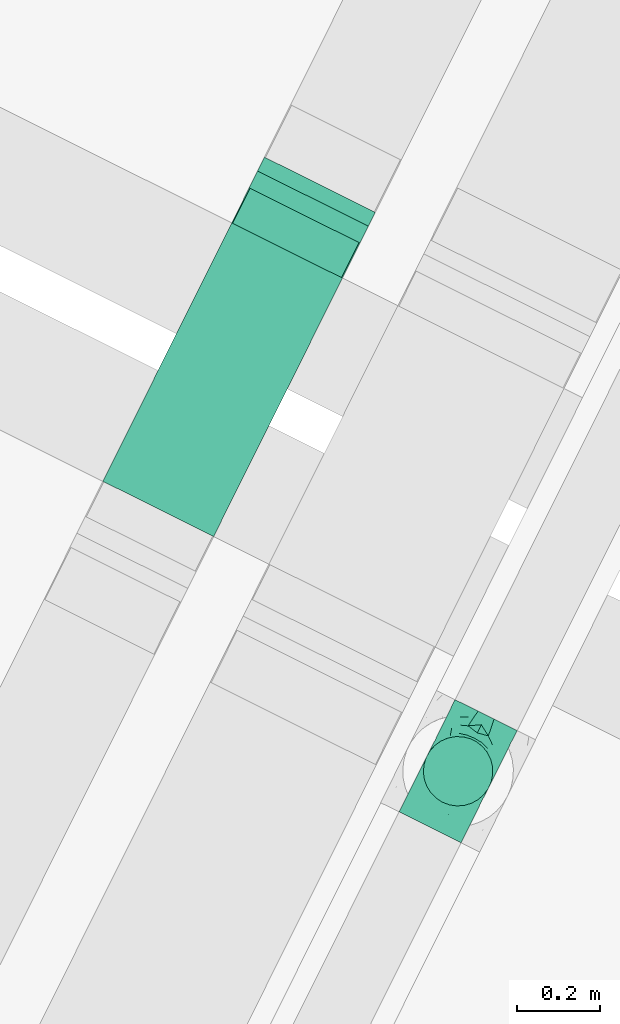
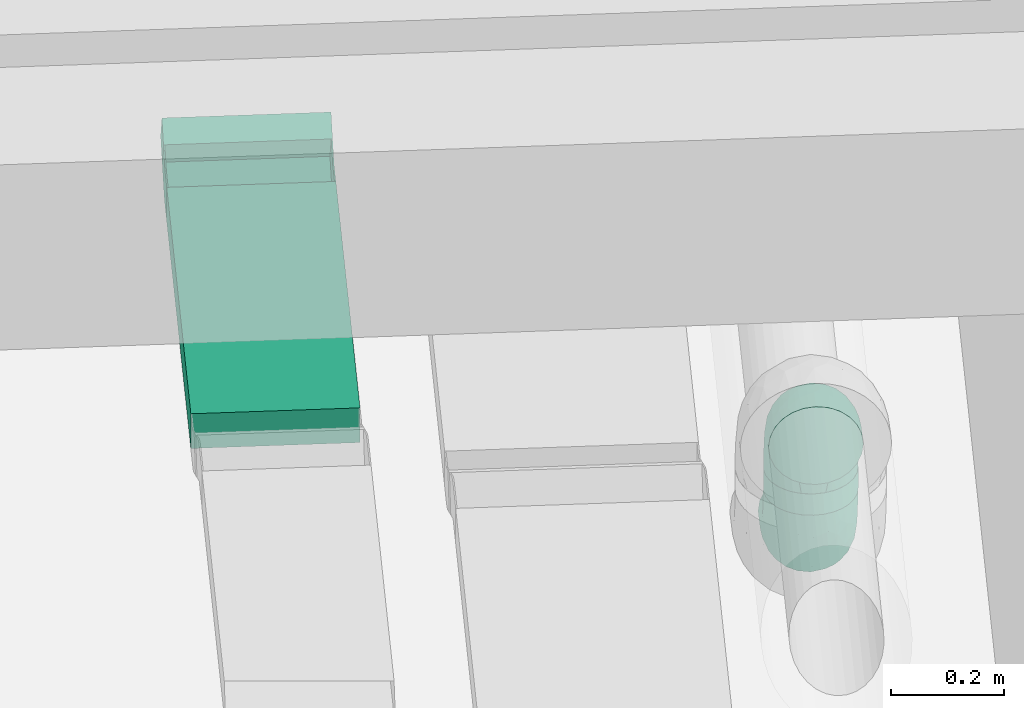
# One storey, part 75 of 91: 3 flow fittings, 3 flow segments.
"""IFC2X3 building model written with IfcOpenShell, lengths in metres."""

from ifc_helpers import new_model, entity, si_unit, converted_unit, derived_unit, direction, frame, frame_2d, origin, origin_2d_with_axis, place, context, subcontext, project, spatial, rectangle, circle, extrude, faceted_brep, source, transform, mapped, type_object, type_shapes, element, save


model = new_model("IFC2X3")

# Units and contexts
model_context = context("Model", 3, precision=1e-05, world=origin(), true_north=direction((0.894925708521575, 0.446215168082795)))
context_of_model = context(None, 3, precision=1e-05, world=origin(), true_north=direction((0.894925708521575, 0.446215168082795)))
body_context = subcontext(model_context, "Body", "Model", "MODEL_VIEW")
ifc_project = project(units=[si_unit("LENGTHUNIT", "METRE"), si_unit("AREAUNIT", "SQUARE_METRE"), si_unit("VOLUMEUNIT", "CUBIC_METRE"), converted_unit("PLANEANGLEUNIT", "DEGREE", entity("IfcRatioMeasure", 0.0174532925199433), si_unit("PLANEANGLEUNIT", "RADIAN"), dimensions=[0, 0, 0, 0, 0, 0, 0]), si_unit("MASSUNIT", "GRAM", prefix="KILO"), si_unit("TIMEUNIT", "SECOND"), si_unit("FREQUENCYUNIT", "HERTZ"), si_unit("THERMODYNAMICTEMPERATUREUNIT", "DEGREE_CELSIUS"), derived_unit("THERMALTRANSMITTANCEUNIT", [(si_unit("MASSUNIT", "GRAM", prefix="KILO"), 1), (si_unit("THERMODYNAMICTEMPERATUREUNIT", "KELVIN"), -1), (si_unit("TIMEUNIT", "SECOND"), -3)]), derived_unit("VOLUMETRICFLOWRATEUNIT", [(si_unit("LENGTHUNIT", "METRE"), 3), (si_unit("TIMEUNIT", "SECOND"), -1)]), si_unit("ELECTRICCURRENTUNIT", "AMPERE"), si_unit("ELECTRICVOLTAGEUNIT", "VOLT"), si_unit("POWERUNIT", "WATT"), si_unit("FORCEUNIT", "NEWTON", prefix="KILO"), si_unit("ILLUMINANCEUNIT", "LUX"), si_unit("LUMINOUSFLUXUNIT", "LUMEN"), si_unit("LUMINOUSINTENSITYUNIT", "CANDELA"), si_unit("PRESSUREUNIT", "PASCAL")], contexts=[model_context, context_of_model])

# Site, building, storey
site_placement = place(None, frame((218.228324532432, 584.720189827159, 0.0), z_axis=(0.0, 0.0, 1.0), x_axis=(0.446215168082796, 0.894925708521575, 0.0)))
site = spatial("IfcSite", under=ifc_project, at=site_placement, Name="Default", CompositionType="ELEMENT")
building_placement = place(site_placement, origin())
building = spatial("IfcBuilding", under=site, at=building_placement, CompositionType="ELEMENT")
storey_placement = place(building_placement, origin())
storey = spatial("IfcBuildingStorey", under=building, at=storey_placement, Name="0 - Piano Terra", CompositionType="ELEMENT", Elevation=0.0)

# Flow segment
pipe_segment_type = type_object("IfcPipeSegmentType", Name="Tubazione:Riscaldamento-Tubazione", PredefinedType="NOTDEFINED")
flow_segment_1_placement = place(storey_placement, frame((-13.5148067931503, -4.47094926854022, 3.702)))
element("IfcFlowSegment", 1, at=flow_segment_1_placement, inside=storey, type_object=pipe_segment_type, Name="Tubazione:Riscaldamento-Tubazione", ObjectType="Tubazione:Riscaldamento-Tubazione", context=body_context, shape_type="SweptSolid", body=[
    extrude(circle(Radius=0.0841375, at=origin_2d_with_axis()), frame((0.0857327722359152, 0.0857327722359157, 0.0), z_axis=(0.0, 0.0, 1.0), x_axis=(-1.0, 0.0, 0.0)), (0.0, 0.0, 1.0), 0.0460000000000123),
])

# Flow fittings
pipe_fitting_type = type_object("IfcPipeFittingType", Name="Standard", PredefinedType="NOTDEFINED")
shared_shape_1 = source(origin(), body_context, "Body", "Brep", [
    faceted_brep([(-0.151999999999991, 0.0, -0.0841500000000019), (-0.151999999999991, -0.0217796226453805, -0.081282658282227), (-0.151999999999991, -0.0420750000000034, -0.0728760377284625), (-0.151999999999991, -0.0595030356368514, -0.05950303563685), (-0.151999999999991, -0.0728760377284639, -0.0420750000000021), (-0.151999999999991, -0.0812826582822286, -0.0217796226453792), (-0.151999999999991, -0.0841500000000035, 0.0), (-0.151999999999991, -0.0812826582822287, 0.021779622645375), (-0.151999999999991, -0.0728760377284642, 0.0420749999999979), (-0.151999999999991, -0.0595030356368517, 0.0595030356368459), (-0.151999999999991, -0.0420750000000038, 0.0728760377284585), (-0.151999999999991, -0.021779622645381, 0.0812826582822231), (-0.151999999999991, 0.0, 0.0841499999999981), (-0.151999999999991, 0.0217796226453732, 0.0812826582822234), (-0.151999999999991, 0.0420749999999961, 0.0728760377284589), (-0.151999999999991, 0.0595030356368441, 0.0595030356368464), (-0.151999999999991, 0.0728760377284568, 0.0420749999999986), (-0.151999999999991, 0.0812826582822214, 0.0217796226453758), (-0.151999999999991, 0.0841499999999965, 0.0), (-0.151999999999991, 0.0812826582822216, -0.021779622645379), (-0.151999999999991, 0.072876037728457, -0.0420750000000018), (-0.151999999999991, 0.0595030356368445, -0.0595030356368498), (-0.151999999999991, 0.0420749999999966, -0.0728760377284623), (-0.151999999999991, 0.0217796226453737, -0.0812826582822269), (-0.0217796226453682, 0.151999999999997, -0.0812826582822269), (-0.0420749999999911, 0.151999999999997, -0.0728760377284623), (-0.059503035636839, 0.151999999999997, -0.0595030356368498), (-0.0728760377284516, 0.151999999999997, -0.0420750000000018), (-0.0812826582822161, 0.151999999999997, -0.021779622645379), (-0.084149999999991, 0.151999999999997, 0.0), (-0.081282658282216, 0.151999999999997, 0.0217796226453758), (-0.0728760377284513, 0.151999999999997, 0.0420749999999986), (-0.0595030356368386, 0.151999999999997, 0.0595030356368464), (-0.0420749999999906, 0.151999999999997, 0.0728760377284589), (-0.0217796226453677, 0.151999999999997, 0.0812826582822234), (0.0, 0.151999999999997, 0.0841499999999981), (0.0217796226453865, 0.151999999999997, 0.0812826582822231), (0.0420750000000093, 0.151999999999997, 0.0728760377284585), (0.0595030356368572, 0.151999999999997, 0.0595030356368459), (0.0728760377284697, 0.151999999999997, 0.0420749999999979), (0.0812826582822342, 0.151999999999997, 0.021779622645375), (0.084150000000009, 0.151999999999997, 0.0), (0.081282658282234, 0.151999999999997, -0.0217796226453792), (0.0728760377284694, 0.151999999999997, -0.0420750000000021), (0.0595030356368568, 0.151999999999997, -0.05950303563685), (0.0420750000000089, 0.151999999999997, -0.0728760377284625), (0.021779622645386, 0.151999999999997, -0.081282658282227), (0.0, 0.151999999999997, -0.0841500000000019), (-0.112295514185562, -0.0662348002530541, 0.0469763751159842), (-0.0998944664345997, -0.0498948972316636, 0.0623523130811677), (-0.0994516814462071, -0.078229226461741, 0.0), (0.0326295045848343, 0.00476288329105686, 0.0), (0.0139051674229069, -0.0139051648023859, 0.0159460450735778), (-0.00476288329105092, -0.0326295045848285, 0.0), (-0.104326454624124, -0.0750333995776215, 0.0261468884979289), (-0.113416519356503, 0.0105478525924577, 0.0839778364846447), (-0.10345101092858, 0.0347244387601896, 0.080327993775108), (-0.131471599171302, 0.0309707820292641, 0.0789057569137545), (-0.0309203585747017, -0.0471487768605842, 0.0225668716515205), (-0.0495383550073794, -0.0607637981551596, 0.0), (-0.0683222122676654, -0.0568785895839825, 0.0418314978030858), (-0.0660333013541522, -0.0644471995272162, 0.0231811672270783), (-0.0835793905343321, 0.116982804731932, 0.0378856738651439), (-0.026569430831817, 0.0183089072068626, 0.0781043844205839), (-0.0165432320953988, 0.0456685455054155, 0.0816880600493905), (-0.0428661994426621, 0.0321386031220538, 0.0835414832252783), (0.0470025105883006, 0.0693062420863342, 0.055217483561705), (0.056878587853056, 0.0683222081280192, 0.0418314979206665), (0.0662347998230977, 0.112295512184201, 0.0469763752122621), (-0.0880808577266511, 0.123149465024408, 0.0194495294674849), (-0.115041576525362, -0.0119238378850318, 0.0826074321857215), (0.049894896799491, 0.0998944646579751, 0.062352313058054), (-0.111156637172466, -0.0327211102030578, 0.0754895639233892), (-0.0752436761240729, -0.0325343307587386, 0.0692137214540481), (-0.00888418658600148, -0.0109985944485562, 0.053550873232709), (-0.00897555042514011, 0.00897554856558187, 0.0674865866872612), (-0.0444608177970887, -0.0301022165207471, 0.0595210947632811), (-0.109349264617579, 0.0934713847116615, 0.0273546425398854), (-0.128739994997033, 0.0797549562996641, 0.0359106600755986), (-0.12603492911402, 0.0893147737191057, 0.0), (0.0471487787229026, 0.0309203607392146, 0.022566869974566), (0.0371028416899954, 0.0305253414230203, 0.0422794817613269), (-0.0347244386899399, 0.103451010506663, 0.080327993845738), (-0.0262367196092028, 0.07490520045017, 0.0840302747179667), (-0.0105478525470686, 0.113416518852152, 0.0839778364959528), (-0.119941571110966, 0.0519254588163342, 0.0698578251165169), (-0.0833454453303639, 0.0610025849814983, 0.0750769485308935), (-0.0993800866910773, 0.0670387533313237, 0.0661104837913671), (-0.0522736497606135, 0.118034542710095, 0.0700368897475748), (-0.118528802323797, 0.069574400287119, 0.055744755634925), (0.0607637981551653, 0.0495383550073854, 0.0), (0.0327211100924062, 0.111156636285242, 0.075489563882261), (-0.0767637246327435, 0.0258413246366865, 0.0839946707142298), (0.0119238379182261, 0.115041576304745, 0.0826074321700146), (-0.102216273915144, 0.0876981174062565, 0.0456699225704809), (0.0782292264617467, 0.0994516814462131, 0.0), (0.0750333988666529, 0.104326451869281, 0.0261468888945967), (0.0651289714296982, 0.0654047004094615, 0.0199129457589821), (-0.0566549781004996, 0.0566549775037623, 0.0823814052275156), (-0.0309707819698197, 0.13147159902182, 0.0789057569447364), (-0.0673555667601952, 0.101601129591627, 0.0649639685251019), (-0.0687747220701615, 0.121637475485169, 0.0553217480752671), (-0.0893147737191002, 0.126034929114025, 0.0), (-0.104022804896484, 0.104022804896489, 0.0), (-0.0580913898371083, 0.0854184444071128, 0.0756364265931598), (0.00431503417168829, 0.0425180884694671, 0.0746493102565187), (0.00308445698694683, 0.0734448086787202, 0.0812650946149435), (-0.0693062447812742, -0.0470025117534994, 0.0552174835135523), (-0.085628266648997, 0.086263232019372, 0.0604079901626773), (-0.0414671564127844, 0.0784252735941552, 0.0819258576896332), (-0.0734448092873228, -0.00308445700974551, 0.0812650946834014), (-0.0305253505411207, -0.037102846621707, 0.0422794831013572), (-0.0426179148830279, -0.0109766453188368, 0.0715577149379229), (0.0222104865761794, 0.075179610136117, 0.0748796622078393), (0.0365396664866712, 0.0751083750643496, 0.0664604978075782), (0.0166895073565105, 0.014403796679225, 0.0525934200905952), (-0.0796442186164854, 0.0464469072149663, 0.0806466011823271), (0.00908607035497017, -0.00908606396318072, 0.036524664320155), (0.0301022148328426, 0.0444608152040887, 0.0595210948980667), (-0.119427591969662, 0.0520158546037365, -0.0699061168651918), (-0.110232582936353, 0.0332348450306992, -0.0799986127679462), (0.067303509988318, 0.127444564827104, -0.0486323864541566), (-0.119776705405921, 0.00991992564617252, -0.0839129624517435), (-0.109349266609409, 0.0934713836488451, -0.0273546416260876), (-0.118520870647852, 0.080425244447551, -0.0418904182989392), (-0.0824889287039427, 0.0176322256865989, -0.0841469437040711), (-0.042237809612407, 0.0404874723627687, -0.0840312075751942), (-0.0715643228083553, 0.0462238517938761, -0.0819502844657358), (-0.0269520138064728, -0.034464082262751, -0.0426985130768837), (-0.0323682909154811, -0.0463076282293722, -0.0273014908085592), (-0.0576003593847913, -0.052357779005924, -0.0416714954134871), (-0.00991992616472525, 0.119776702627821, -0.083912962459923), (-0.0332348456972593, 0.110232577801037, -0.0799986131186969), (-0.0929808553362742, 0.0517253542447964, -0.0762272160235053), (0.00399581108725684, 0.0640144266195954, -0.079667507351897), (0.00840813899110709, 0.0328778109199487, -0.0692544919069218), (-0.0236511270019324, 0.0236511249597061, -0.0788049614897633), (0.0635649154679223, 0.0943451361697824, -0.0449449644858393), (0.0647121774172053, 0.0698052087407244, -0.0267768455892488), (0.0523577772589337, 0.0576003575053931, -0.0416714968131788), (-0.132110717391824, 0.0669080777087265, -0.0539090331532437), (-0.110166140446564, -0.0759227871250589, -0.0269132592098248), (-0.127444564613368, -0.067303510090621, -0.0486323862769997), (-0.0698052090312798, -0.0647121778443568, -0.0267768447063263), (0.00867466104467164, -0.00867466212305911, -0.037708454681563), (0.0160110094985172, 0.0156079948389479, -0.0541609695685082), (0.0347671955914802, 0.027256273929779, -0.0425577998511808), (-0.109085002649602, -0.0511074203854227, -0.0631726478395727), (0.0138015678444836, -0.0138015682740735, -0.0166872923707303), (-0.0734094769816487, 0.10741660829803, -0.0572817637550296), (-0.0938460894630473, 0.0941329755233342, -0.0467626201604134), (-0.0824977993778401, 0.119740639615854, -0.0374121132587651), (0.0203075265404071, 0.0628849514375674, -0.0729261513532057), (-0.127855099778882, -0.0335932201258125, -0.0764538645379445), (-0.111254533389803, -0.0115586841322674, -0.0825049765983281), (-0.054595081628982, -0.037464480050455, -0.0579290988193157), (-0.0943451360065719, -0.0635649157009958, -0.0449449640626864), (0.0463076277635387, 0.0323682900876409, -0.0273014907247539), (-0.0879480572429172, 0.123581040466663, -0.0192162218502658), (-0.0520158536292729, 0.119427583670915, -0.0699061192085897), (-0.0668704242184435, 0.132433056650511, -0.053865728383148), (0.0759227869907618, 0.11016614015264, -0.0269132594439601), (-0.094035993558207, 0.0671599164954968, -0.0682327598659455), (-0.0852711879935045, 0.0856897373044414, -0.0610386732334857), (-0.0723785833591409, 0.0723785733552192, -0.0743572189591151), (0.0511074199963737, 0.109085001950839, -0.0631726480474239), (0.0335932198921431, 0.127855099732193, -0.0764538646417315), (0.0115586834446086, 0.111254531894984, -0.0825049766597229), (0.0304569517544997, 0.0950501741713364, -0.0744944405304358), (-0.0587965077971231, -0.0231830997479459, -0.0701791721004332), (-0.0640144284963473, -0.0039958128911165, -0.0796675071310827), (-0.0253392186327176, -0.00591217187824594, -0.0673625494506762), (-0.0950501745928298, -0.0304569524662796, -0.0744944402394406), (0.0374644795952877, 0.0545950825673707, -0.0579290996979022), (-0.0176322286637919, 0.082488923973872, -0.0841469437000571), (-0.0469951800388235, 0.0749575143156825, -0.081286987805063), (-0.0651507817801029, 0.0957840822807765, -0.0687360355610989), (-0.0548517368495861, 0.0878796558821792, -0.0762491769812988), (-0.0117403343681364, -0.0138595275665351, -0.0531816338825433), (-0.106904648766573, 0.0736247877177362, -0.0573538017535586)], [[[0, 1, 2, 3, 4, 5, 6, 7, 8, 9, 10, 11, 12, 13, 14, 15, 16, 17, 18, 19, 20, 21, 22, 23]], [[24, 25, 26, 27, 28, 29, 30, 31, 32, 33, 34, 35, 36, 37, 38, 39, 40, 41, 42, 43, 44, 45, 46, 47]], [[9, 48, 49]], [[7, 6, 50]], [[51, 52, 53]], [[54, 8, 7]], [[50, 54, 7]], [[55, 56, 57]], [[8, 48, 9]], [[58, 59, 53]], [[60, 54, 61]], [[58, 60, 61]], [[9, 49, 10]], [[62, 31, 30]], [[63, 64, 65]], [[66, 67, 68]], [[30, 69, 62]], [[11, 70, 12]], [[71, 38, 37]], [[14, 13, 57]], [[10, 49, 72]], [[49, 73, 72]], [[74, 75, 76]], [[77, 17, 78]], [[17, 79, 18]], [[79, 17, 77]], [[80, 67, 81]], [[82, 83, 84]], [[85, 86, 87]], [[33, 32, 88]], [[85, 89, 15]], [[80, 51, 90]], [[71, 37, 91]], [[56, 55, 92]], [[93, 36, 35]], [[78, 94, 77]], [[95, 40, 96]], [[95, 96, 97]], [[83, 98, 65]], [[35, 34, 84]], [[34, 99, 84]], [[96, 40, 39]], [[71, 66, 68]], [[39, 38, 68]], [[94, 62, 77]], [[67, 80, 97]], [[100, 88, 101]], [[40, 95, 41]], [[15, 14, 85]], [[68, 96, 39]], [[56, 86, 85]], [[29, 102, 69]], [[15, 89, 16]], [[77, 69, 103]], [[78, 17, 16]], [[77, 103, 79]], [[61, 50, 59]], [[101, 88, 32]], [[69, 77, 62]], [[82, 88, 104]], [[91, 37, 36]], [[10, 72, 11]], [[64, 105, 106]], [[88, 82, 99]], [[99, 34, 33]], [[49, 48, 107]], [[48, 54, 60]], [[97, 80, 90]], [[32, 31, 101]], [[13, 12, 55]], [[108, 86, 104]], [[83, 109, 98]], [[93, 84, 106]], [[70, 55, 12]], [[110, 65, 92]], [[60, 58, 111]], [[76, 112, 73]], [[91, 113, 114]], [[75, 74, 115]], [[49, 107, 73]], [[70, 72, 110]], [[93, 91, 36]], [[106, 105, 113]], [[57, 85, 14]], [[116, 98, 86]], [[31, 62, 101]], [[108, 101, 62]], [[54, 48, 8]], [[48, 60, 107]], [[71, 68, 38]], [[96, 68, 67]], [[109, 104, 98]], [[89, 87, 108]], [[84, 93, 35]], [[93, 106, 113]], [[72, 70, 11]], [[55, 70, 110]], [[98, 116, 92]], [[106, 84, 83]], [[110, 112, 63]], [[83, 65, 64]], [[52, 58, 53]], [[111, 76, 107]], [[67, 66, 81]], [[52, 80, 117]], [[110, 92, 55]], [[98, 92, 65]], [[104, 88, 100]], [[98, 104, 86]], [[112, 76, 75]], [[110, 72, 73]], [[63, 112, 75]], [[110, 73, 112]], [[63, 75, 105]], [[110, 63, 65]], [[75, 118, 105]], [[113, 91, 93]], [[105, 118, 113]], [[118, 66, 114]], [[16, 89, 78]], [[94, 89, 108]], [[89, 94, 78]], [[62, 94, 108]], [[105, 64, 63]], [[83, 64, 106]], [[58, 117, 111]], [[74, 111, 117]], [[115, 81, 118]], [[117, 80, 81]], [[80, 52, 51]], [[58, 52, 117]], [[88, 99, 33]], [[84, 99, 82]], [[55, 57, 13]], [[85, 57, 56]], [[29, 69, 30]], [[69, 102, 103]], [[111, 107, 60]], [[73, 107, 76]], [[111, 74, 76]], [[117, 81, 115]], [[75, 115, 118]], [[117, 115, 74]], [[114, 66, 71]], [[81, 66, 118]], [[91, 114, 71]], [[118, 114, 113]], [[101, 108, 100]], [[104, 100, 108]], [[86, 56, 116]], [[92, 116, 56]], [[85, 87, 89]], [[86, 108, 87]], [[83, 82, 109]], [[104, 109, 82]], [[50, 61, 54]], [[59, 58, 61]], [[95, 97, 90]], [[67, 97, 96]], [[22, 119, 120]], [[121, 44, 43]], [[0, 23, 122]], [[19, 123, 124]], [[122, 120, 125]], [[126, 125, 127]], [[18, 79, 19]], [[128, 129, 130]], [[19, 79, 123]], [[24, 131, 132]], [[119, 133, 120]], [[134, 135, 136]], [[137, 138, 139]], [[20, 140, 21]], [[141, 4, 142]], [[143, 50, 141]], [[50, 6, 5]], [[144, 145, 146]], [[147, 3, 2]], [[129, 143, 130]], [[129, 144, 148]], [[149, 150, 151]], [[135, 134, 152]], [[141, 5, 4]], [[2, 153, 147]], [[154, 1, 0]], [[155, 156, 147]], [[2, 1, 153]], [[157, 90, 51]], [[123, 150, 124]], [[103, 123, 79]], [[156, 143, 141]], [[151, 158, 28]], [[25, 132, 159]], [[28, 158, 29]], [[27, 160, 151]], [[43, 42, 161]], [[27, 26, 160]], [[162, 163, 164]], [[45, 44, 165]], [[166, 167, 46]], [[165, 168, 166]], [[169, 170, 171]], [[131, 24, 47]], [[51, 148, 157]], [[26, 25, 159]], [[125, 120, 127]], [[46, 45, 166]], [[157, 139, 138]], [[53, 59, 129]], [[24, 132, 25]], [[3, 142, 4]], [[148, 51, 53]], [[154, 172, 153]], [[168, 165, 173]], [[28, 27, 151]], [[41, 95, 42]], [[172, 154, 170]], [[120, 133, 127]], [[161, 137, 121]], [[46, 167, 47]], [[167, 134, 174]], [[135, 171, 136]], [[120, 23, 22]], [[164, 175, 127]], [[102, 158, 103]], [[159, 176, 149]], [[22, 21, 119]], [[138, 137, 161]], [[149, 163, 150]], [[158, 102, 29]], [[121, 165, 44]], [[173, 165, 137]], [[134, 167, 168]], [[131, 167, 174]], [[152, 173, 135]], [[134, 136, 126]], [[42, 95, 161]], [[138, 95, 90]], [[155, 147, 172]], [[142, 147, 156]], [[122, 154, 0]], [[125, 126, 170]], [[125, 170, 154]], [[170, 136, 171]], [[130, 143, 156]], [[50, 5, 141]], [[140, 119, 21]], [[133, 162, 164]], [[175, 164, 177]], [[160, 159, 149]], [[173, 145, 135]], [[145, 178, 171]], [[171, 135, 145]], [[171, 155, 169]], [[120, 122, 23]], [[154, 122, 125]], [[167, 131, 47]], [[132, 131, 174]], [[95, 138, 161]], [[90, 157, 138]], [[129, 59, 143]], [[50, 143, 59]], [[177, 164, 176]], [[126, 136, 170]], [[175, 126, 127]], [[134, 126, 174]], [[132, 174, 175]], [[126, 175, 174]], [[173, 139, 146]], [[145, 144, 178]], [[128, 144, 129]], [[155, 171, 178]], [[146, 139, 157]], [[173, 137, 139]], [[144, 146, 157]], [[173, 146, 145]], [[156, 155, 130]], [[128, 155, 178]], [[155, 128, 130]], [[144, 128, 178]], [[124, 150, 179]], [[123, 151, 150]], [[140, 124, 179]], [[19, 124, 20]], [[151, 123, 158]], [[103, 158, 123]], [[162, 119, 179]], [[127, 133, 164]], [[119, 162, 133]], [[163, 162, 179]], [[150, 163, 179]], [[163, 149, 176]], [[129, 148, 53]], [[157, 148, 144]], [[124, 140, 20]], [[119, 140, 179]], [[159, 160, 26]], [[151, 160, 149]], [[165, 166, 45]], [[167, 166, 168]], [[161, 121, 43]], [[165, 121, 137]], [[154, 153, 1]], [[147, 153, 172]], [[147, 142, 3]], [[141, 142, 156]], [[159, 132, 177]], [[163, 176, 164]], [[159, 177, 176]], [[132, 175, 177]], [[134, 168, 152]], [[173, 152, 168]], [[155, 172, 169]], [[170, 169, 172]]]),
])
type_shapes(pipe_fitting_type, [shared_shape_1])
for number, where, z_axis, x_axis, name in (
    (2, (-13.4290740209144, -4.3852164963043, 3.55000000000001), (0.0, 1.0, 0.0), (-1.0, 0.0, 0.0), "M_Gomito - Saldato - Generico:Standard"),
    (3, (-13.4290740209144, -4.38521649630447, 3.89999999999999), (0.0, -1.0, 0.0), (0.0, 0.0, 1.0), "M_Gomito - Saldato - Generico:Standard"),
):
    element("IfcFlowFitting", number, at=place(storey_placement, frame(where, z_axis=z_axis, x_axis=x_axis)), inside=storey, type_object=pipe_fitting_type, Name=name, ObjectType="Standard", context=body_context, shape_type="MappedRepresentation", body=[
        mapped(shared_shape_1, transform((0.0, 0.0, 0.0), scale=1.0)),
    ])

# Flow segments
cable_carrier_segment_type = type_object("IfcCableCarrierSegmentType", Name="Passerella con raccordi:Passerella canale", PredefinedType="NOTDEFINED")
flow_segment_2_placement = place(storey_placement, frame((-13.1843892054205, -3.60107899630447, 3.6627510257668)))
element("IfcFlowSegment", 4, at=flow_segment_2_placement, inside=storey, type_object=cable_carrier_segment_type, Name="Passerella con raccordi:Passerella canale", ObjectType="Passerella con raccordi:Passerella canale", context=body_context, shape_type="SweptSolid", body=[
    extrude(rectangle(XDim=0.699999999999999, YDim=0.3, at=frame_2d((1.08246744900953e-15, 5.41233724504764e-16), x_axis=(1.0, 0.0))), frame((0.350000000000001, 0.150000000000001, 0.0)), (0.0, 0.0, 1.0), 0.0750000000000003),
])
flow_segment_3_placement = place(storey_placement, frame((-12.3895004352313, -3.60107899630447, 3.69822448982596)))
element("IfcFlowSegment", 5, at=flow_segment_3_placement, inside=storey, type_object=cable_carrier_segment_type, Name="Passerella con raccordi:Passerella canale", ObjectType="Passerella con raccordi:Passerella canale", context=body_context, shape_type="SweptSolid", body=[
    extrude(rectangle(XDim=0.0750000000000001, YDim=0.0527002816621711, at=frame_2d((0.0, 0.0), x_axis=(0.0, 1.0))), frame((0.0415698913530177, 0.0, 0.0456510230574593), z_axis=(0.0, 1.0, 0.0), x_axis=(0.866025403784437, 0.0, 0.500000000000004)), (0.0, 0.0, 1.0), 0.3),
])

# Flow fitting
cable_carrier_fitting_type = type_object("IfcCableCarrierFittingType", Name="Standard", PredefinedType="NOTDEFINED")
shared_shape_2 = source(origin(), body_context, "Body", "Brep", [
    faceted_brep([(-0.0608988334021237, -0.0349600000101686, -0.147460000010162), (-0.0608988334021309, 0.0374999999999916, -0.147460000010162), (-0.0608988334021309, 0.0374999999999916, -0.150000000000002), (-0.0608988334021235, -0.0375000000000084, -0.150000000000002), (-0.0608988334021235, -0.0375000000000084, 0.149999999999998), (-0.0608988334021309, 0.0374999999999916, 0.149999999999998), (-0.0608988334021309, 0.0374999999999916, 0.147460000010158), (-0.0608988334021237, -0.0349600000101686, 0.147460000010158), (0.0339899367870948, 0.0629253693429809, -0.150000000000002), (0.0339899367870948, 0.0629253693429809, -0.147460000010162), (0.0702199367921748, 0.000173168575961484, -0.147460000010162), (0.0702199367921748, 0.000173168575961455, 0.147460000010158), (0.0339899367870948, 0.0629253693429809, 0.147460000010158), (0.0339899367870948, 0.0629253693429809, 0.149999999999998), (0.0714899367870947, -0.00202653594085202, 0.149999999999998), (0.0714899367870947, -0.00202653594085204, -0.150000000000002), (-0.0108988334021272, -0.0375000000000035, 0.149999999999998), (0.00933434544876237, -0.0348362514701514, 0.149999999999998), (0.0281886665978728, -0.027026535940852, 0.149999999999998), (-0.00931133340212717, 0.0379253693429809, 0.149999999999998), (-0.0100770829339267, 0.0376081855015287, 0.149999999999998), (-0.0108988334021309, 0.0374999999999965, 0.149999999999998), (-0.0108988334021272, -0.0375000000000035, -0.150000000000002), (-0.0108988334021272, -0.0375000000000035, -0.00436238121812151), (-0.0108988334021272, 0.0374999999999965, -0.150000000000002), (-0.0100770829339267, 0.0376081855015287, -0.150000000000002), (-0.00931133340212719, 0.037925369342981, -0.150000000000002), (0.0281886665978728, -0.027026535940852, -0.150000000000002), (0.00933434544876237, -0.0348362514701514, -0.150000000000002), (-0.0108988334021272, 0.0374999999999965, -0.147460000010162), (-0.0108988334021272, 0.0374999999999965, 0.147460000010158), (-0.0108988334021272, -0.0349600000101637, -0.147460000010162), (0.00867694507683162, -0.0323827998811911, -0.147460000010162), (0.0269186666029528, -0.0248268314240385, -0.147460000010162), (-0.00931133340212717, 0.0379253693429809, -0.147460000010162), (-0.0100770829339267, 0.0376081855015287, -0.147460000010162), (-0.0108988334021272, -0.0349600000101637, 0.147460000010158), (-0.0108988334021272, -0.0349600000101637, -0.00437396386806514), (-0.0100770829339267, 0.0376081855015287, 0.147460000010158), (-0.00931133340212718, 0.0379253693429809, 0.147460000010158), (0.0269186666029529, -0.0248268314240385, 0.147460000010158), (0.00867694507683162, -0.0323827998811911, 0.147460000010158), (0.00517118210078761, -0.0358304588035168, 0.0), (0.0281886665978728, -0.027026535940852, -0.00436237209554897), (0.00483151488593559, -0.0333061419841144, 0.0), (0.0269186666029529, -0.0248268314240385, -0.00437395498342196)], [[[0, 1, 2, 3, 4, 5, 6, 7]], [[8, 9, 10, 11, 12, 13, 14, 15]], [[4, 16, 17, 18, 14, 13, 19, 20, 21, 5]], [[4, 3, 22, 23, 16]], [[2, 24, 25, 26, 8, 15, 27, 28, 22, 3]], [[2, 1, 29, 24]], [[6, 5, 21, 30]], [[0, 31, 32, 33, 10, 9, 34, 35, 29, 1]], [[0, 7, 36, 37, 31]], [[6, 30, 38, 39, 12, 11, 40, 41, 36, 7]], [[16, 23, 22, 42]], [[43, 28, 27]], [[43, 18, 17]], [[42, 22, 28]], [[43, 17, 42]], [[43, 42, 28]], [[16, 42, 17]], [[29, 35, 25, 24]], [[20, 38, 30, 21]], [[34, 26, 25, 35]], [[19, 39, 38, 20]], [[44, 31, 37, 36]], [[33, 32, 45]], [[41, 40, 45]], [[32, 31, 44]], [[44, 41, 45]], [[32, 44, 45]], [[41, 44, 36]], [[15, 14, 18, 43, 27]], [[26, 34, 9, 8]], [[39, 19, 13, 12]], [[11, 10, 33, 45, 40]]]),
])
type_shapes(cable_carrier_fitting_type, [shared_shape_2])
flow_fitting_placement = place(storey_placement, frame((-12.4234903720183, -3.45107899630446, 3.70025102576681), z_axis=(0.0, -1.0, 0.0), x_axis=(1.0, 0.0, 0.0)))
element("IfcFlowFitting", 6, at=flow_fitting_placement, inside=storey, type_object=cable_carrier_fitting_type, Name="M_Curvatura interna verticale canale:Standard", ObjectType="Standard", context=body_context, shape_type="MappedRepresentation", body=[
    mapped(shared_shape_2, transform((0.0, 0.0, 0.0), scale=1.0)),
])

save(model, "model.ifc")
